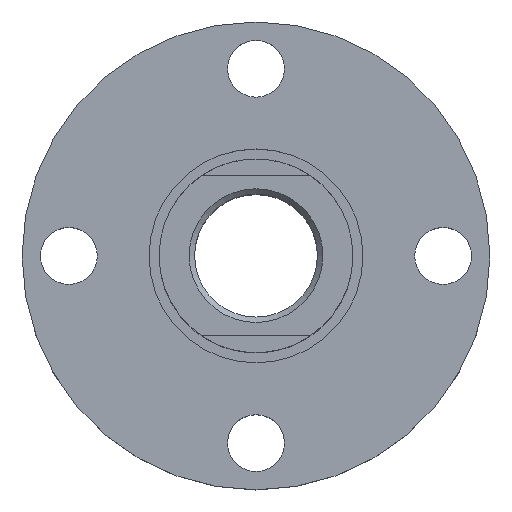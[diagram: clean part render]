
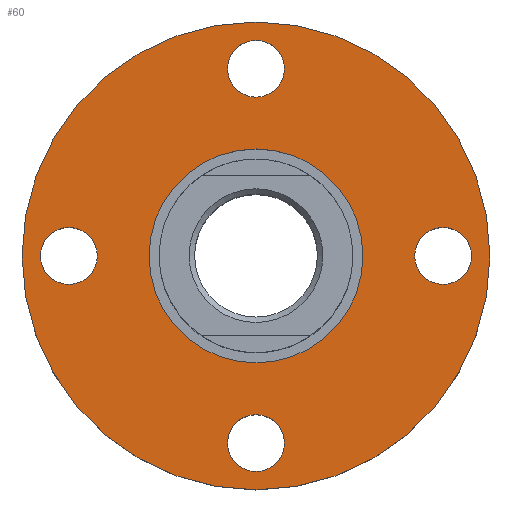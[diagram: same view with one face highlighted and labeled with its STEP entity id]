
A CAD part, top view. The second image highlights one B-rep face of the part: STEP entity #60.
In plain terms, the highlighted planar face has unit normal (0, 0, 1).
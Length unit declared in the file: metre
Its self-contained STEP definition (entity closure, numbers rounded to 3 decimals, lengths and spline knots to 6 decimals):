
#60 = ADVANCED_FACE( '', ( #132, #133, #134, #135, #136, #137 ), #138, .F. );
#132 = FACE_BOUND( '', #215, .T. );
#133 = FACE_BOUND( '', #216, .T. );
#134 = FACE_BOUND( '', #217, .T. );
#135 = FACE_BOUND( '', #218, .T. );
#136 = FACE_OUTER_BOUND( '', #219, .T. );
#137 = FACE_BOUND( '', #220, .T. );
#138 = PLANE( '', #221 );
#215 = EDGE_LOOP( '', ( #318 ) );
#216 = EDGE_LOOP( '', ( #319 ) );
#217 = EDGE_LOOP( '', ( #320 ) );
#218 = EDGE_LOOP( '', ( #321 ) );
#219 = EDGE_LOOP( '', ( #322 ) );
#220 = EDGE_LOOP( '', ( #323 ) );
#221 = AXIS2_PLACEMENT_3D( '', #324, #325, #326 );
#318 = ORIENTED_EDGE( '', *, *, #415, .F. );
#319 = ORIENTED_EDGE( '', *, *, #413, .F. );
#320 = ORIENTED_EDGE( '', *, *, #416, .F. );
#321 = ORIENTED_EDGE( '', *, *, #417, .F. );
#322 = ORIENTED_EDGE( '', *, *, #403, .T. );
#323 = ORIENTED_EDGE( '', *, *, #418, .T. );
#324 = CARTESIAN_POINT( '', ( 0., 0., 0.01 ) );
#325 = DIRECTION( '', ( 0., 0., -1. ) );
#326 = DIRECTION( '', ( 1., 0., 0. ) );
#403 = EDGE_CURVE( '', #461, #461, #462, .T. );
#413 = EDGE_CURVE( '', #478, #478, #479, .T. );
#415 = EDGE_CURVE( '', #481, #481, #482, .T. );
#416 = EDGE_CURVE( '', #483, #483, #484, .T. );
#417 = EDGE_CURVE( '', #485, #485, #486, .T. );
#418 = EDGE_CURVE( '', #487, #487, #488, .F. );
#461 = VERTEX_POINT( '', #539 );
#462 = CIRCLE( '', #540, 0.035 );
#478 = VERTEX_POINT( '', #556 );
#479 = CIRCLE( '', #557, 0.00425 );
#481 = VERTEX_POINT( '', #559 );
#482 = CIRCLE( '', #560, 0.00425 );
#483 = VERTEX_POINT( '', #561 );
#484 = CIRCLE( '', #562, 0.00425 );
#485 = VERTEX_POINT( '', #563 );
#486 = CIRCLE( '', #564, 0.00425 );
#487 = VERTEX_POINT( '', #565 );
#488 = CIRCLE( '', #566, 0.016 );
#539 = CARTESIAN_POINT( '', ( 0.035, 0., 0.01 ) );
#540 = AXIS2_PLACEMENT_3D( '', #610, #611, #612 );
#556 = CARTESIAN_POINT( '', ( -0.03225, 0., 0.01 ) );
#557 = AXIS2_PLACEMENT_3D( '', #631, #632, #633 );
#559 = CARTESIAN_POINT( '', ( 0., -0.03225, 0.01 ) );
#560 = AXIS2_PLACEMENT_3D( '', #634, #635, #636 );
#561 = CARTESIAN_POINT( '', ( 0., 0.03225, 0.01 ) );
#562 = AXIS2_PLACEMENT_3D( '', #637, #638, #639 );
#563 = CARTESIAN_POINT( '', ( 0.03225, 0., 0.01 ) );
#564 = AXIS2_PLACEMENT_3D( '', #640, #641, #642 );
#565 = CARTESIAN_POINT( '', ( 0.016, 0., 0.01 ) );
#566 = AXIS2_PLACEMENT_3D( '', #643, #644, #645 );
#610 = CARTESIAN_POINT( '', ( 0., 0., 0.01 ) );
#611 = DIRECTION( '', ( 0., 0., 1. ) );
#612 = DIRECTION( '', ( 1., 0., 0. ) );
#631 = CARTESIAN_POINT( '', ( -0.028, 0., 0.01 ) );
#632 = DIRECTION( '', ( 0., 0., 1. ) );
#633 = DIRECTION( '', ( -1., 0., 0. ) );
#634 = CARTESIAN_POINT( '', ( 0., -0.028, 0.01 ) );
#635 = DIRECTION( '', ( 0., 0., 1. ) );
#636 = DIRECTION( '', ( 0., -1., 0. ) );
#637 = CARTESIAN_POINT( '', ( 0., 0.028, 0.01 ) );
#638 = DIRECTION( '', ( 0., 0., 1. ) );
#639 = DIRECTION( '', ( 0., 1., 0. ) );
#640 = CARTESIAN_POINT( '', ( 0.028, 0., 0.01 ) );
#641 = DIRECTION( '', ( 0., 0., 1. ) );
#642 = DIRECTION( '', ( 1., 0., 0. ) );
#643 = CARTESIAN_POINT( '', ( 0., 0., 0.01 ) );
#644 = DIRECTION( '', ( 0., 0., 1. ) );
#645 = DIRECTION( '', ( 1., 0., 0. ) );
